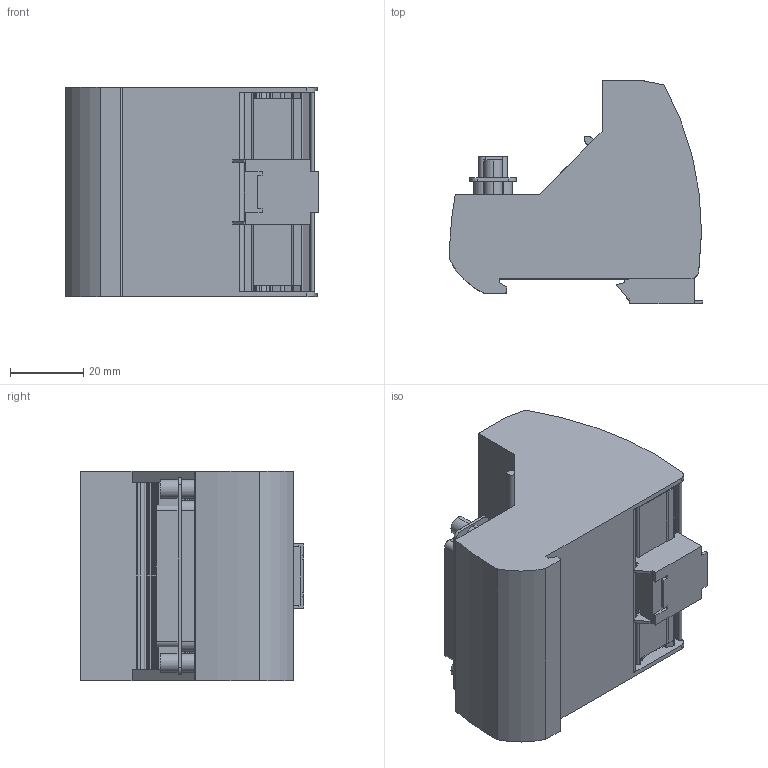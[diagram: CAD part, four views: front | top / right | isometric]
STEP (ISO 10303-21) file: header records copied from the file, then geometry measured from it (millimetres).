
FILE_DESCRIPTION((''),'2;1');
FILE_NAME('CU_25PIN_FDSUB_DINRAIL','2015-05-20T',('dkendric'),(''),'PRO/ENGINEER BY PARAMETRIC TECHNOLOGY CORPORATION, 2014000','PRO/ENGINEER BY PARAMETRIC TECHNOLOGY CORPORATION, 2014000','');
FILE_SCHEMA(('CONFIG_CONTROL_DESIGN'));
Length unit declared in the file: inch
Products named in the file (1): CU_25PIN_FDSUB_DINRAIL
Bounding box: 69.05 x 60.97 x 57.1 mm (x, y, z)
Volume: 122610.1 mm3; surface area: 29875.4 mm2
Topology: 1 solids, 1 shells, 846 faces, 2335 edges, 1497 vertices
Faces by surface type: plane 719, cylinder 126, extrusion 1
Entity records: 26532 total; most frequent: CARTESIAN_POINT 4813, ORIENTED_EDGE 4670, DIRECTION 4276, EDGE_CURVE 2335, VECTOR 2022, LINE 2021, VERTEX_POINT 1497, AXIS2_PLACEMENT_3D 1127
